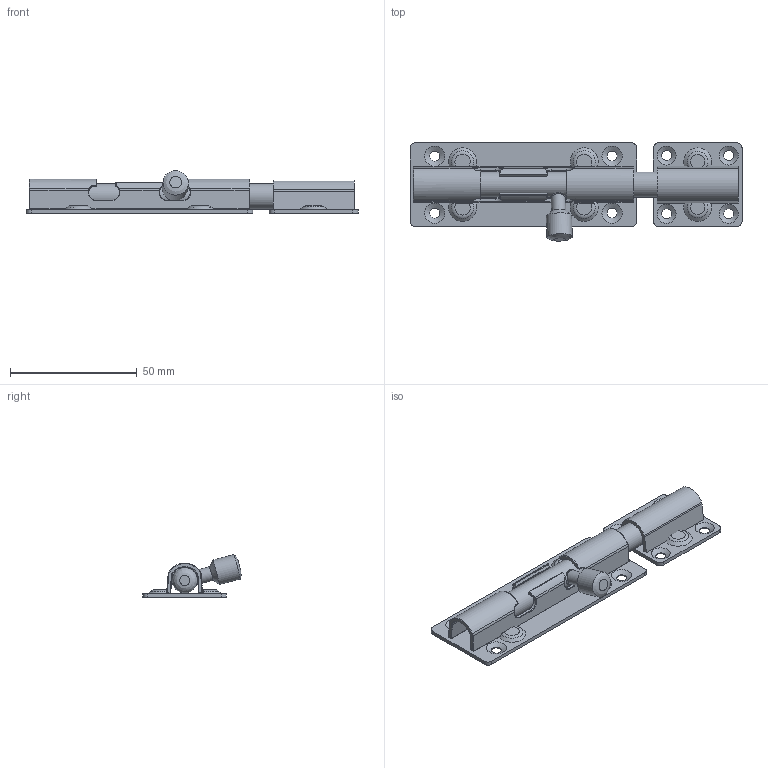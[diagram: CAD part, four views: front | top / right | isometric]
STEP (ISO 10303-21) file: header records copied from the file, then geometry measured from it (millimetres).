
FILE_DESCRIPTION(/* description */ (''),/* implementation_level */ '2;1');
FILE_NAME(/* name */ '\\NAS\db20\ODS1-5\DR_ODS1-5.stp',/* time_stamp */ '2017-09-01T16:41:12+09:00',/* author */ ('user'),/* organization */ (''),/* preprocessor_version */ 'ST-DEVELOPER v15.6',/* originating_system */ 'Autodesk Inventor 2015',/* authorisation */ '');
FILE_SCHEMA (('AUTOMOTIVE_DESIGN { 1 0 10303 214 3 1 1 }'));
Length unit declared in the file: millimetre
Products named in the file (4): DR_ODS1-5-BR; DR_ODS1-5-C; DR_ODS1-5-P; DR_ODS1-5
Bounding box: 131.05 x 38.81 x 16.9 mm (x, y, z)
Volume: 18867.6 mm3; surface area: 19439.7 mm2
Topology: 5 solids, 5 shells, 537 faces, 1325 edges, 796 vertices
Faces by surface type: cylinder 203, plane 139, bspline 92, torus 50, sphere 32, cone 21
Full cylindrical faces by diameter (mm): 4 x8, 5.6 x1, 10 x2
Entity records: 17754 total; most frequent: CARTESIAN_POINT 5305, DIRECTION 2640, ORIENTED_EDGE 2584, EDGE_CURVE 1292, AXIS2_PLACEMENT_3D 1061, VERTEX_POINT 784, EDGE_LOOP 586, FACE_OUTER_BOUND 537
